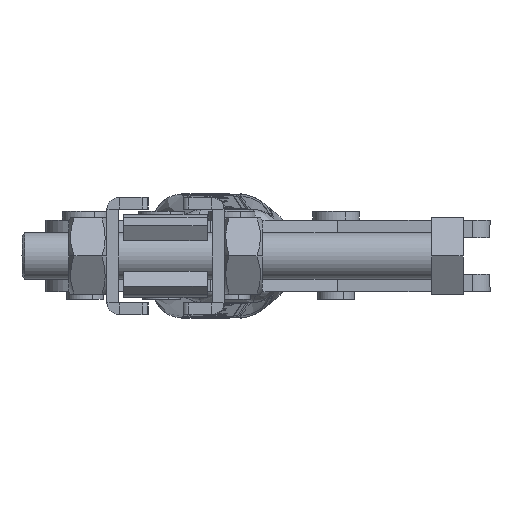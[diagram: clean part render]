
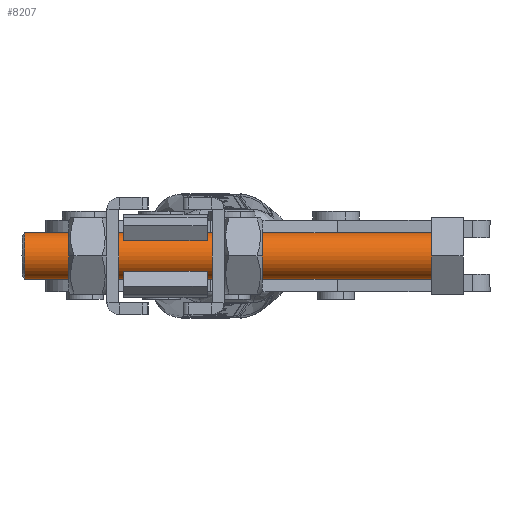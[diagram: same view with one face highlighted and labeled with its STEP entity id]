
A CAD part, left-side view. The second image highlights one B-rep face of the part: STEP entity #8207.
In plain terms, the highlighted cylindrical face has radius 4 mm (diameter 8 mm), a partial arc.
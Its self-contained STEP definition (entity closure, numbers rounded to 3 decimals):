
#1376 = CIRCLE ( 'NONE', #16708, 4. ) ;
#1481 = DIRECTION ( 'NONE',  ( 0., 0., -1. ) ) ;
#1798 = DIRECTION ( 'NONE',  ( 0., -1., 0. ) ) ;
#2493 = VERTEX_POINT ( 'NONE', #14665 ) ;
#2723 = DIRECTION ( 'NONE',  ( 0., 1., 0. ) ) ;
#3519 = EDGE_LOOP ( 'NONE', ( #4884, #31378, #4815, #35076 ) ) ;
#3962 = VERTEX_POINT ( 'NONE', #20525 ) ;
#4815 = ORIENTED_EDGE ( 'NONE', *, *, #26046, .T. ) ;
#4884 = ORIENTED_EDGE ( 'NONE', *, *, #24084, .T. ) ;
#5021 = LINE ( 'NONE', #9106, #26515 ) ;
#5604 = CARTESIAN_POINT ( 'NONE',  ( 0., -70., 0. ) ) ;
#6319 = DIRECTION ( 'NONE',  ( 0., 1., 0. ) ) ;
#6375 = VERTEX_POINT ( 'NONE', #20529 ) ;
#6610 = AXIS2_PLACEMENT_3D ( 'NONE', #5604, #2723, #14008 ) ;
#8207 = ADVANCED_FACE ( 'NONE', ( #9677 ), #16268, .T. ) ;
#9106 = CARTESIAN_POINT ( 'NONE',  ( 0., -70., -4. ) ) ;
#9677 = FACE_OUTER_BOUND ( 'NONE', #3519, .T. ) ;
#12027 = DIRECTION ( 'NONE',  ( 0., 1., 0. ) ) ;
#12084 = EDGE_CURVE ( 'NONE', #2493, #3962, #28402, .T. ) ;
#13425 = VECTOR ( 'NONE', #12027, 1000. ) ;
#14008 = DIRECTION ( 'NONE',  ( 0., 0., 1. ) ) ;
#14665 = CARTESIAN_POINT ( 'NONE',  ( 0., -69.5, 4. ) ) ;
#16268 = CYLINDRICAL_SURFACE ( 'NONE', #6610, 4. ) ;
#16708 = AXIS2_PLACEMENT_3D ( 'NONE', #18611, #1798, #21463 ) ;
#18182 = VERTEX_POINT ( 'NONE', #21978 ) ;
#18288 = DIRECTION ( 'NONE',  ( 0., 1., 0. ) ) ;
#18611 = CARTESIAN_POINT ( 'NONE',  ( 0., 0., 0. ) ) ;
#20525 = CARTESIAN_POINT ( 'NONE',  ( 0., 0., 4. ) ) ;
#20529 = CARTESIAN_POINT ( 'NONE',  ( 0., -69.5, -4. ) ) ;
#21463 = DIRECTION ( 'NONE',  ( 0., 0., 1. ) ) ;
#21978 = CARTESIAN_POINT ( 'NONE',  ( 0., 0., -4. ) ) ;
#24084 = EDGE_CURVE ( 'NONE', #2493, #6375, #26964, .T. ) ;
#26046 = EDGE_CURVE ( 'NONE', #18182, #3962, #1376, .T. ) ;
#26515 = VECTOR ( 'NONE', #6319, 1000. ) ;
#26964 = CIRCLE ( 'NONE', #27953, 4. ) ;
#27953 = AXIS2_PLACEMENT_3D ( 'NONE', #35112, #18288, #1481 ) ;
#28402 = LINE ( 'NONE', #34406, #13425 ) ;
#31378 = ORIENTED_EDGE ( 'NONE', *, *, #31386, .T. ) ;
#31386 = EDGE_CURVE ( 'NONE', #6375, #18182, #5021, .T. ) ;
#34406 = CARTESIAN_POINT ( 'NONE',  ( 0., -70., 4. ) ) ;
#35076 = ORIENTED_EDGE ( 'NONE', *, *, #12084, .F. ) ;
#35112 = CARTESIAN_POINT ( 'NONE',  ( 0., -69.5, 0. ) ) ;
